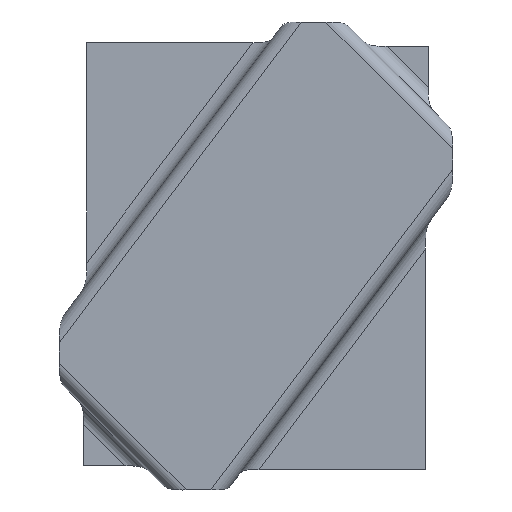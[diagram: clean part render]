
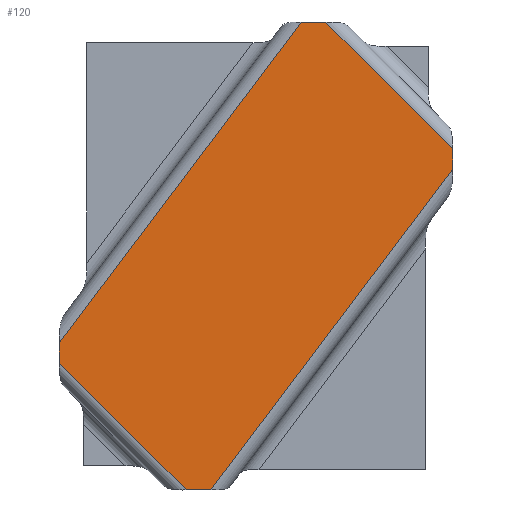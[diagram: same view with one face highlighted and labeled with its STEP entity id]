
A CAD part, top view. The second image highlights one B-rep face of the part: STEP entity #120.
In plain terms, the highlighted planar face has unit normal (0, 0, -1).
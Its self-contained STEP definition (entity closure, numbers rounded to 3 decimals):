
#53=CARTESIAN_POINT('Axis2P3D Location',(-51.565,38.861,65.069)) ;
#59=CARTESIAN_POINT('Control Point',(-51.565,78.191,65.069)) ;
#60=CARTESIAN_POINT('Control Point',(12.996,163.861,65.069)) ;
#61=CARTESIAN_POINT('Vertex',(-51.565,78.191,65.069)) ;
#63=CARTESIAN_POINT('Vertex',(12.996,163.861,65.069)) ;
#66=CARTESIAN_POINT('Line Origine',(0.935,163.861,65.069)) ;
#70=CARTESIAN_POINT('Vertex',(19.609,163.861,65.069)) ;
#74=CARTESIAN_POINT('Control Point',(19.609,163.861,65.069)) ;
#75=CARTESIAN_POINT('Control Point',(53.435,130.035,65.069)) ;
#76=CARTESIAN_POINT('Vertex',(53.435,130.035,65.069)) ;
#79=CARTESIAN_POINT('Line Origine',(53.435,101.361,65.069)) ;
#83=CARTESIAN_POINT('Vertex',(53.435,124.507,65.069)) ;
#87=CARTESIAN_POINT('Control Point',(53.435,124.507,65.069)) ;
#88=CARTESIAN_POINT('Control Point',(-11.11,38.861,65.069)) ;
#89=CARTESIAN_POINT('Vertex',(-11.11,38.861,65.069)) ;
#92=CARTESIAN_POINT('Line Origine',(0.935,38.861,65.069)) ;
#96=CARTESIAN_POINT('Vertex',(-17.74,38.861,65.069)) ;
#100=CARTESIAN_POINT('Control Point',(-51.565,72.687,65.069)) ;
#101=CARTESIAN_POINT('Control Point',(-17.74,38.861,65.069)) ;
#102=CARTESIAN_POINT('Vertex',(-51.565,72.687,65.069)) ;
#105=CARTESIAN_POINT('Line Origine',(-51.565,101.361,65.069)) ;
#54=DIRECTION('Axis2P3D Direction',(0.,0.,1.)) ;
#55=DIRECTION('Axis2P3D XDirection',(1.,0.,0.)) ;
#67=DIRECTION('Vector Direction',(1.,0.,0.)) ;
#80=DIRECTION('Vector Direction',(0.,1.,0.)) ;
#93=DIRECTION('Vector Direction',(1.,0.,0.)) ;
#106=DIRECTION('Vector Direction',(0.,1.,0.)) ;
#56=AXIS2_PLACEMENT_3D('Plane Axis2P3D',#53,#54,#55) ;
#111=ORIENTED_EDGE('',*,*,#65,.T.) ;
#112=ORIENTED_EDGE('',*,*,#72,.T.) ;
#113=ORIENTED_EDGE('',*,*,#78,.T.) ;
#114=ORIENTED_EDGE('',*,*,#85,.T.) ;
#115=ORIENTED_EDGE('',*,*,#91,.T.) ;
#116=ORIENTED_EDGE('',*,*,#98,.T.) ;
#117=ORIENTED_EDGE('',*,*,#104,.F.) ;
#118=ORIENTED_EDGE('',*,*,#109,.T.) ;
#68=VECTOR('Line Direction',#67,1.) ;
#81=VECTOR('Line Direction',#80,1.) ;
#94=VECTOR('Line Direction',#93,1.) ;
#107=VECTOR('Line Direction',#106,1.) ;
#120=ADVANCED_FACE('Offset.1',(#119),#57,.F.) ;
#58=B_SPLINE_CURVE_WITH_KNOTS('',1,(#59,#60),.UNSPECIFIED.,.F.,.U.,(2,2),(-53.636,53.636),.UNSPECIFIED.) ;
#73=B_SPLINE_CURVE_WITH_KNOTS('',1,(#74,#75),.UNSPECIFIED.,.F.,.U.,(2,2),(-23.919,23.919),.UNSPECIFIED.) ;
#86=B_SPLINE_CURVE_WITH_KNOTS('',1,(#87,#88),.UNSPECIFIED.,.F.,.U.,(2,2),(-53.622,53.622),.UNSPECIFIED.) ;
#99=B_SPLINE_CURVE_WITH_KNOTS('',1,(#100,#101),.UNSPECIFIED.,.F.,.U.,(2,2),(-23.919,23.919),.UNSPECIFIED.) ;
#65=EDGE_CURVE('',#62,#64,#58,.T.) ;
#72=EDGE_CURVE('',#64,#71,#69,.T.) ;
#78=EDGE_CURVE('',#71,#77,#73,.T.) ;
#85=EDGE_CURVE('',#77,#84,#82,.F.) ;
#91=EDGE_CURVE('',#84,#90,#86,.T.) ;
#98=EDGE_CURVE('',#90,#97,#95,.F.) ;
#104=EDGE_CURVE('',#103,#97,#99,.T.) ;
#109=EDGE_CURVE('',#103,#62,#108,.T.) ;
#110=EDGE_LOOP('',(#111,#112,#113,#114,#115,#116,#117,#118)) ;
#119=FACE_OUTER_BOUND('',#110,.T.) ;
#69=LINE('Line',#66,#68) ;
#82=LINE('Line',#79,#81) ;
#95=LINE('Line',#92,#94) ;
#108=LINE('Line',#105,#107) ;
#57=PLANE('',#56) ;
#62=VERTEX_POINT('',#61) ;
#64=VERTEX_POINT('',#63) ;
#71=VERTEX_POINT('',#70) ;
#77=VERTEX_POINT('',#76) ;
#84=VERTEX_POINT('',#83) ;
#90=VERTEX_POINT('',#89) ;
#97=VERTEX_POINT('',#96) ;
#103=VERTEX_POINT('',#102) ;
